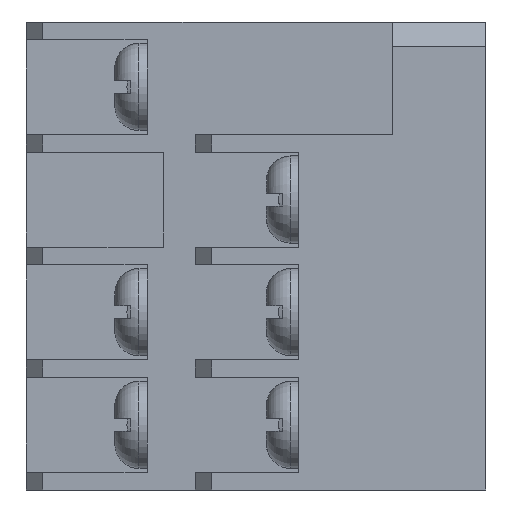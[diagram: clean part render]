
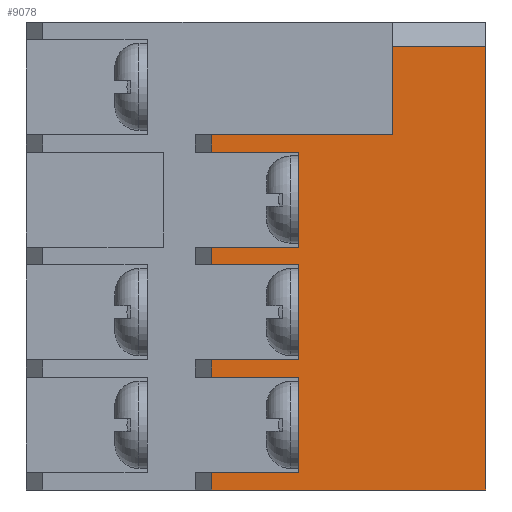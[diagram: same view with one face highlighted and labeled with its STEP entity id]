
A CAD part, left-side view. The second image highlights one B-rep face of the part: STEP entity #9078.
In plain terms, the highlighted planar face has unit normal (-1, 0, 0).
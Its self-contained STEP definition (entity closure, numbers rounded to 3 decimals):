
#160 = VERTEX_POINT ( 'NONE', #1235 ) ;
#293 = CARTESIAN_POINT ( 'NONE',  ( -33.75, 0., 27.5 ) ) ;
#313 = ORIENTED_EDGE ( 'NONE', *, *, #9476, .T. ) ;
#342 = CARTESIAN_POINT ( 'NONE',  ( -33.75, 11.6, 1.1 ) ) ;
#490 = LINE ( 'NONE', #11470, #3280 ) ;
#506 = CARTESIAN_POINT ( 'NONE',  ( -33.75, 17., 15.05 ) ) ;
#513 = EDGE_CURVE ( 'NONE', #14465, #15949, #7269, .T. ) ;
#892 = VERTEX_POINT ( 'NONE', #342 ) ;
#920 = CARTESIAN_POINT ( 'NONE',  ( -33.75, 10.6, 8.075 ) ) ;
#947 = VECTOR ( 'NONE', #10284, 1000. ) ;
#1019 = VECTOR ( 'NONE', #1944, 1000. ) ;
#1235 = CARTESIAN_POINT ( 'NONE',  ( -33.75, 11.6, 20.925 ) ) ;
#1561 = ORIENTED_EDGE ( 'NONE', *, *, #10203, .T. ) ;
#1588 = CARTESIAN_POINT ( 'NONE',  ( -33.75, 0., 27.5 ) ) ;
#1944 = DIRECTION ( 'NONE',  ( 0., 0., -1. ) ) ;
#1988 = EDGE_CURVE ( 'NONE', #160, #17200, #9119, .T. ) ;
#2057 = CARTESIAN_POINT ( 'NONE',  ( -33.75, 10.6, 22.025 ) ) ;
#2298 = CARTESIAN_POINT ( 'NONE',  ( -33.75, 10.6, 6.975 ) ) ;
#2471 = ORIENTED_EDGE ( 'NONE', *, *, #15466, .F. ) ;
#2544 = ORIENTED_EDGE ( 'NONE', *, *, #10220, .T. ) ;
#2566 = CARTESIAN_POINT ( 'NONE',  ( -33.75, 11.6, 8.075 ) ) ;
#2591 = ORIENTED_EDGE ( 'NONE', *, *, #14276, .T. ) ;
#2596 = EDGE_CURVE ( 'NONE', #2899, #160, #3127, .T. ) ;
#2648 = CARTESIAN_POINT ( 'NONE',  ( -33.75, 5.8, 22.025 ) ) ;
#2695 = VECTOR ( 'NONE', #13241, 1000. ) ;
#2800 = DIRECTION ( 'NONE',  ( 0., 0., 1. ) ) ;
#2835 = DIRECTION ( 'NONE',  ( 0., 1., 0. ) ) ;
#2899 = VERTEX_POINT ( 'NONE', #5640 ) ;
#3127 = LINE ( 'NONE', #10334, #2695 ) ;
#3207 = VECTOR ( 'NONE', #11694, 1000. ) ;
#3280 = VECTOR ( 'NONE', #12780, 1000. ) ;
#3643 = DIRECTION ( 'NONE',  ( 0., 0., -1. ) ) ;
#3679 = VERTEX_POINT ( 'NONE', #13455 ) ;
#3725 = VECTOR ( 'NONE', #16888, 1000. ) ;
#3872 = ORIENTED_EDGE ( 'NONE', *, *, #513, .T. ) ;
#4078 = LINE ( 'NONE', #1588, #14057 ) ;
#4177 = ORIENTED_EDGE ( 'NONE', *, *, #6007, .F. ) ;
#4693 = EDGE_LOOP ( 'NONE', ( #4177, #6406, #2591, #3872, #1561, #16415, #12840, #313, #2544, #15907, #10490, #11186, #12495, #6856, #2471, #15254, #8580, #13352 ) ) ;
#4738 = VERTEX_POINT ( 'NONE', #8477 ) ;
#4804 = LINE ( 'NONE', #6214, #947 ) ;
#4925 = CARTESIAN_POINT ( 'NONE',  ( -33.75, 17., 8.075 ) ) ;
#5009 = VERTEX_POINT ( 'NONE', #14138 ) ;
#5084 = DIRECTION ( 'NONE',  ( 0., 0., -1. ) ) ;
#5328 = CARTESIAN_POINT ( 'NONE',  ( -33.75, 17., 20.925 ) ) ;
#5640 = CARTESIAN_POINT ( 'NONE',  ( -33.75, 11.6, 15.05 ) ) ;
#5786 = CARTESIAN_POINT ( 'NONE',  ( -33.75, 10.6, 15.05 ) ) ;
#5816 = LINE ( 'NONE', #6333, #14309 ) ;
#6007 = EDGE_CURVE ( 'NONE', #10536, #6225, #5816, .T. ) ;
#6054 = CARTESIAN_POINT ( 'NONE',  ( -33.75, 5.8, 22.025 ) ) ;
#6214 = CARTESIAN_POINT ( 'NONE',  ( -33.75, 10.6, 13.95 ) ) ;
#6225 = VERTEX_POINT ( 'NONE', #12483 ) ;
#6333 = CARTESIAN_POINT ( 'NONE',  ( -33.75, 0., 29. ) ) ;
#6406 = ORIENTED_EDGE ( 'NONE', *, *, #7086, .T. ) ;
#6408 = VERTEX_POINT ( 'NONE', #506 ) ;
#6476 = VERTEX_POINT ( 'NONE', #7958 ) ;
#6498 = DIRECTION ( 'NONE',  ( 0., 1., 0. ) ) ;
#6648 = CARTESIAN_POINT ( 'NONE',  ( -33.75, 11.6, 6.975 ) ) ;
#6658 = VECTOR ( 'NONE', #13224, 1000. ) ;
#6662 = CARTESIAN_POINT ( 'NONE',  ( -33.75, 17., 13.95 ) ) ;
#6856 = ORIENTED_EDGE ( 'NONE', *, *, #8869, .F. ) ;
#7086 = EDGE_CURVE ( 'NONE', #10536, #11516, #4078, .T. ) ;
#7104 = CARTESIAN_POINT ( 'NONE',  ( -33.75, 0., 0. ) ) ;
#7176 = CARTESIAN_POINT ( 'NONE',  ( -33.75, 5.8, 27.5 ) ) ;
#7269 = LINE ( 'NONE', #2057, #3207 ) ;
#7707 = VECTOR ( 'NONE', #5084, 1000. ) ;
#7958 = CARTESIAN_POINT ( 'NONE',  ( -33.75, 17., 6.975 ) ) ;
#8477 = CARTESIAN_POINT ( 'NONE',  ( -33.75, 11.6, 6.975 ) ) ;
#8580 = ORIENTED_EDGE ( 'NONE', *, *, #11164, .T. ) ;
#8587 = VECTOR ( 'NONE', #13920, 1000. ) ;
#8597 = CARTESIAN_POINT ( 'NONE',  ( -33.75, 17., 20.925 ) ) ;
#8869 = EDGE_CURVE ( 'NONE', #4738, #6476, #14663, .T. ) ;
#8938 = LINE ( 'NONE', #11647, #1019 ) ;
#9078 = ADVANCED_FACE ( 'NONE', ( #14736 ), #15579, .F. ) ;
#9119 = LINE ( 'NONE', #12104, #17158 ) ;
#9219 = LINE ( 'NONE', #5786, #8587 ) ;
#9414 = VECTOR ( 'NONE', #13840, 1000. ) ;
#9476 = EDGE_CURVE ( 'NONE', #2899, #6408, #9219, .T. ) ;
#9974 = EDGE_CURVE ( 'NONE', #15868, #6476, #15545, .T. ) ;
#10203 = EDGE_CURVE ( 'NONE', #15949, #17200, #10435, .T. ) ;
#10220 = EDGE_CURVE ( 'NONE', #6408, #5009, #11299, .T. ) ;
#10283 = VECTOR ( 'NONE', #2800, 1000. ) ;
#10284 = DIRECTION ( 'NONE',  ( 0., 1., 0. ) ) ;
#10305 = CARTESIAN_POINT ( 'NONE',  ( -33.75, 11.6, 13.95 ) ) ;
#10334 = CARTESIAN_POINT ( 'NONE',  ( -33.75, 11.6, 20.935 ) ) ;
#10372 = VECTOR ( 'NONE', #10720, 1000. ) ;
#10435 = LINE ( 'NONE', #5328, #6658 ) ;
#10490 = ORIENTED_EDGE ( 'NONE', *, *, #15110, .F. ) ;
#10508 = DIRECTION ( 'NONE',  ( 0., 1., 0. ) ) ;
#10536 = VERTEX_POINT ( 'NONE', #293 ) ;
#10720 = DIRECTION ( 'NONE',  ( 0., 0., 1. ) ) ;
#10832 = VERTEX_POINT ( 'NONE', #2566 ) ;
#11018 = EDGE_CURVE ( 'NONE', #12444, #6225, #15933, .T. ) ;
#11164 = EDGE_CURVE ( 'NONE', #3679, #12444, #8938, .T. ) ;
#11186 = ORIENTED_EDGE ( 'NONE', *, *, #16008, .T. ) ;
#11217 = CARTESIAN_POINT ( 'NONE',  ( -33.75, 17., 6.975 ) ) ;
#11299 = LINE ( 'NONE', #6662, #7707 ) ;
#11446 = LINE ( 'NONE', #920, #13355 ) ;
#11470 = CARTESIAN_POINT ( 'NONE',  ( -33.75, 10.6, 1.1 ) ) ;
#11516 = VERTEX_POINT ( 'NONE', #7176 ) ;
#11586 = CARTESIAN_POINT ( 'NONE',  ( -33.75, 17., 22.025 ) ) ;
#11603 = DIRECTION ( 'NONE',  ( 0., 0., -1. ) ) ;
#11647 = CARTESIAN_POINT ( 'NONE',  ( -33.75, 17., 0. ) ) ;
#11659 = CARTESIAN_POINT ( 'NONE',  ( -33.75, 0., 29. ) ) ;
#11694 = DIRECTION ( 'NONE',  ( 0., 1., 0. ) ) ;
#12090 = AXIS2_PLACEMENT_3D ( 'NONE', #11659, #12974, #11603 ) ;
#12104 = CARTESIAN_POINT ( 'NONE',  ( -33.75, 10.6, 20.925 ) ) ;
#12444 = VERTEX_POINT ( 'NONE', #15264 ) ;
#12483 = CARTESIAN_POINT ( 'NONE',  ( -33.75, 0., 0. ) ) ;
#12495 = ORIENTED_EDGE ( 'NONE', *, *, #9974, .T. ) ;
#12780 = DIRECTION ( 'NONE',  ( 0., 1., 0. ) ) ;
#12840 = ORIENTED_EDGE ( 'NONE', *, *, #2596, .F. ) ;
#12974 = DIRECTION ( 'NONE',  ( 1., 0., 0. ) ) ;
#13224 = DIRECTION ( 'NONE',  ( 0., 0., -1. ) ) ;
#13241 = DIRECTION ( 'NONE',  ( 0., 0., 1. ) ) ;
#13341 = LINE ( 'NONE', #6648, #10372 ) ;
#13352 = ORIENTED_EDGE ( 'NONE', *, *, #11018, .T. ) ;
#13355 = VECTOR ( 'NONE', #10508, 1000. ) ;
#13455 = CARTESIAN_POINT ( 'NONE',  ( -33.75, 17., 1.1 ) ) ;
#13782 = EDGE_CURVE ( 'NONE', #892, #3679, #490, .T. ) ;
#13840 = DIRECTION ( 'NONE',  ( 0., 0., -1. ) ) ;
#13919 = LINE ( 'NONE', #16362, #10283 ) ;
#13920 = DIRECTION ( 'NONE',  ( 0., 1., 0. ) ) ;
#14057 = VECTOR ( 'NONE', #2835, 1000. ) ;
#14138 = CARTESIAN_POINT ( 'NONE',  ( -33.75, 17., 13.95 ) ) ;
#14276 = EDGE_CURVE ( 'NONE', #11516, #14465, #16866, .T. ) ;
#14309 = VECTOR ( 'NONE', #3643, 1000. ) ;
#14465 = VERTEX_POINT ( 'NONE', #2648 ) ;
#14663 = LINE ( 'NONE', #2298, #15075 ) ;
#14736 = FACE_OUTER_BOUND ( 'NONE', #4693, .T. ) ;
#15075 = VECTOR ( 'NONE', #6498, 1000. ) ;
#15110 = EDGE_CURVE ( 'NONE', #10832, #16476, #13919, .T. ) ;
#15227 = DIRECTION ( 'NONE',  ( 0., -1., 0. ) ) ;
#15254 = ORIENTED_EDGE ( 'NONE', *, *, #13782, .T. ) ;
#15264 = CARTESIAN_POINT ( 'NONE',  ( -33.75, 17., 0. ) ) ;
#15309 = VECTOR ( 'NONE', #15227, 1000. ) ;
#15466 = EDGE_CURVE ( 'NONE', #892, #4738, #13341, .T. ) ;
#15545 = LINE ( 'NONE', #11217, #9414 ) ;
#15579 = PLANE ( 'NONE',  #12090 ) ;
#15868 = VERTEX_POINT ( 'NONE', #4925 ) ;
#15907 = ORIENTED_EDGE ( 'NONE', *, *, #17374, .F. ) ;
#15933 = LINE ( 'NONE', #7104, #15309 ) ;
#15949 = VERTEX_POINT ( 'NONE', #11586 ) ;
#16008 = EDGE_CURVE ( 'NONE', #10832, #15868, #11446, .T. ) ;
#16362 = CARTESIAN_POINT ( 'NONE',  ( -33.75, 11.6, 13.955 ) ) ;
#16415 = ORIENTED_EDGE ( 'NONE', *, *, #1988, .F. ) ;
#16476 = VERTEX_POINT ( 'NONE', #10305 ) ;
#16866 = LINE ( 'NONE', #6054, #3725 ) ;
#16888 = DIRECTION ( 'NONE',  ( 0., 0., -1. ) ) ;
#17158 = VECTOR ( 'NONE', #17561, 1000. ) ;
#17200 = VERTEX_POINT ( 'NONE', #8597 ) ;
#17374 = EDGE_CURVE ( 'NONE', #16476, #5009, #4804, .T. ) ;
#17561 = DIRECTION ( 'NONE',  ( 0., 1., 0. ) ) ;
